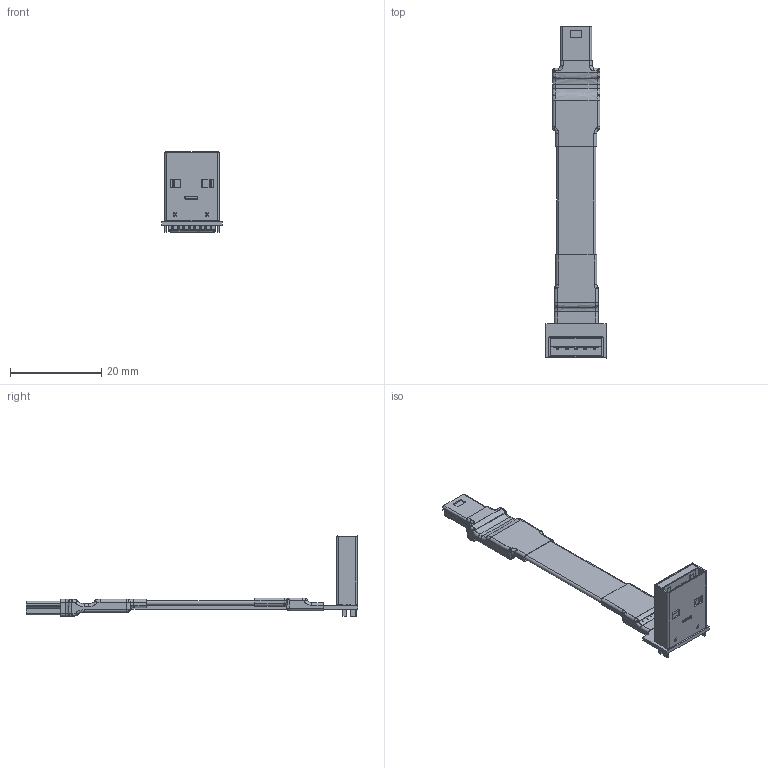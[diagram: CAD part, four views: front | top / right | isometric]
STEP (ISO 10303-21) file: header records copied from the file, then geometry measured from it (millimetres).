
FILE_DESCRIPTION(('Open CASCADE Model'),'2;1');
FILE_NAME('Open CASCADE Shape Model','2026-01-04T16:40:05',('Author'),( 'Open CASCADE'),'Open CASCADE STEP processor 7.5','Open CASCADE 7.5' ,'Unknown');
FILE_SCHEMA(('AUTOMOTIVE_DESIGN { 1 0 10303 214 1 1 1 1 }'));
Length unit declared in the file: millimetre
Products named in the file (47): PCB; Board; Open CASCADE STEP translator 7.5 4.1.1; Designator28; MINI USB B M 5Pһͥʽ¶̗ӽżӳ¤ǰϥº􏣀A*쀖; MINI USB B M 5PÒ»ÌåÊ½¶Ë×Ó½Å¼Ó³¤Ç°ÎåºóÎå; Designator46; USB ¹«ͷ 20211210£¨2£©; Free-Models; UN1 13P ƽֱɈ̵¹ڠ20260104_RGB4408131; USB 13P bʽɈ̵¹ڠ20251229_RGB4408131; cable13-US2A
Assembly tree (46 placements, depth 3):
  PCB
    Board
      Open CASCADE STEP translator 7.5 4.1.1
    Designator28
      MINI USB B M 5Pһͥʽ¶̗ӽżӳ¤ǰϥº􏣀A*쀖
      MINI USB B M 5PÒ»ÌåÊ½¶Ë×Ó½Å¼Ó³¤Ç°ÎåºóÎå
      MINI USB B M 5Pһͥʽ¶̗ӽżӳ¤ǰϥº􏣀A*쀖
      MINI USB B M 5PÒ»ÌåÊ½¶Ë×Ó½Å¼Ó³¤Ç°ÎåºóÎå
    Designator46
      USB ¹«ͷ 20211210£¨2£©
      USB ¹«ͷ 20211210£¨2£©
      USB ¹«ͷ 20211210£¨2£©
      USB ¹«ͷ 20211210£¨2£©
      USB ¹«ͷ 20211210£¨2£©
      USB ¹«ͷ 20211210£¨2£©
      USB ¹«ͷ 20211210£¨2£©
      USB ¹«ͷ 20211210£¨2£©
    Free-Models
      UN1 13P ƽֱɈ̵¹ڠ20260104_RGB4408131
      USB 13P bʽɈ̵¹ڠ20251229_RGB4408131
      cable13-US2A
      cable13-US2A
      cable13-US2A
      cable13-US2A
      cable13-US2A
      cable13-US2A
      cable13-US2A
      cable13-US2A
      cable13-US2A
      cable13-US2A
      cable13-US2A
      cable13-US2A
      cable13-US2A
      cable13-US2A
      cable13-US2A
      cable13-US2A
      cable13-US2A
      cable13-US2A
      cable13-US2A
      cable13-US2A
      cable13-US2A
      cable13-US2A
      cable13-US2A
      cable13-US2A
      cable13-US2A
      cable13-US2A
      cable13-US2A
Bounding box: 13.21 x 72.93 x 17.7 mm (x, y, z)
Volume: 1192.9 mm3; surface area: 5961.9 mm2
Topology: 41 solids, 42 shells, 942 faces, 2318 edges, 1431 vertices
Faces by surface type: plane 486, cylinder 270, bspline 122, offset 34, torus 30
Full cylindrical faces by diameter (mm): 0.4 x65, 0.55 x26, 0.85 x2, 0.95 x7
Entity records: 67645 total; most frequent: CARTESIAN_POINT 40518, ORIENTED_EDGE 4548, DIRECTION 3914, EDGE_CURVE 2274, VERTEX_POINT 1431, LINE 1314, VECTOR 1314, AXIS2_PLACEMENT_3D 1300
